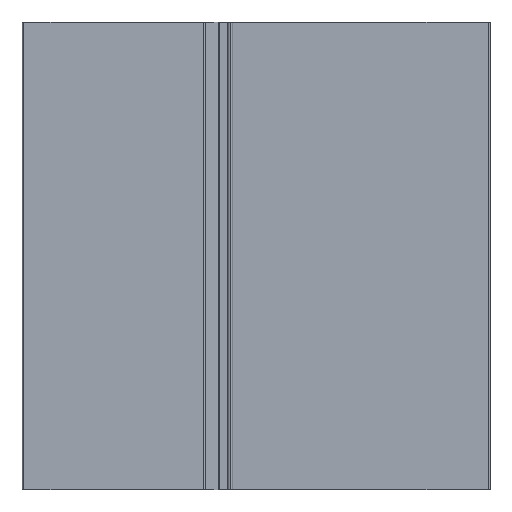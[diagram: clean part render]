
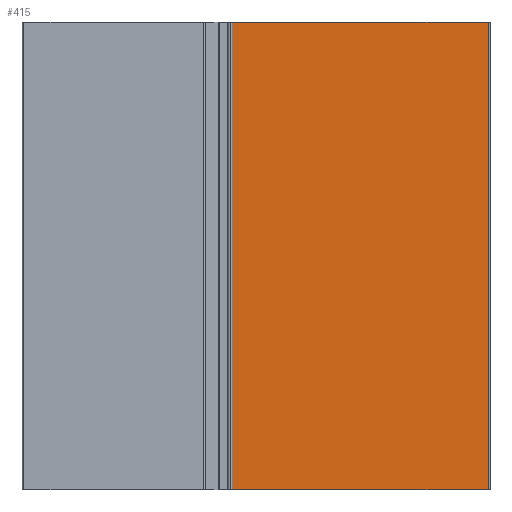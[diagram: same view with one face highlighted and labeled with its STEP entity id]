
A CAD part, left-side view. The second image highlights one B-rep face of the part: STEP entity #415.
In plain terms, the highlighted planar face has unit normal (-1, 0, 0).
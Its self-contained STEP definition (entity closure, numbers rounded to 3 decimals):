
#290 = VERTEX_POINT ( 'NONE', #3055 ) ;
#302 = EDGE_CURVE ( 'NONE', #2502, #290, #3162, .T. ) ;
#333 = ORIENTED_EDGE ( 'NONE', *, *, #302, .T. ) ;
#382 = EDGE_LOOP ( 'NONE', ( #333, #604, #4276, #4034 ) ) ;
#415 = ADVANCED_FACE ( 'NONE', ( #3804 ), #3805, .F. ) ;
#604 = ORIENTED_EDGE ( 'NONE', *, *, #4350, .F. ) ;
#613 = VERTEX_POINT ( 'NONE', #2166 ) ;
#652 = EDGE_CURVE ( 'NONE', #613, #2502, #2288, .T. ) ;
#1765 = CARTESIAN_POINT ( 'NONE',  ( -2.55, 0.2, 50. ) ) ;
#1905 = LINE ( 'NONE', #1906, #1907 ) ;
#1906 = CARTESIAN_POINT ( 'NONE',  ( -2.55, 0.2, 50. ) ) ;
#1907 = VECTOR ( 'NONE', #1908, 1000. ) ;
#1908 = DIRECTION ( 'NONE',  ( 0., 0., -1. ) ) ;
#2166 = CARTESIAN_POINT ( 'NONE',  ( -2.55, 27.5, 50. ) ) ;
#2288 = LINE ( 'NONE', #2289, #2290 ) ;
#2289 = CARTESIAN_POINT ( 'NONE',  ( -2.55, 27.5, 50. ) ) ;
#2290 = VECTOR ( 'NONE', #2291, 1000. ) ;
#2291 = DIRECTION ( 'NONE',  ( 0., 0., -1. ) ) ;
#2502 = VERTEX_POINT ( 'NONE', #2862 ) ;
#2862 = CARTESIAN_POINT ( 'NONE',  ( -2.55, 27.5, 0. ) ) ;
#3055 = CARTESIAN_POINT ( 'NONE',  ( -2.55, 0.2, 0. ) ) ;
#3162 = LINE ( 'NONE', #3163, #3165 ) ;
#3163 = CARTESIAN_POINT ( 'NONE',  ( -2.55, 0.2, 0. ) ) ;
#3165 = VECTOR ( 'NONE', #3166, 1000. ) ;
#3166 = DIRECTION ( 'NONE',  ( 0., -1., 0. ) ) ;
#3804 = FACE_OUTER_BOUND ( 'NONE', #382, .T. ) ;
#3805 = PLANE ( 'NONE',  #3806 ) ;
#3806 = AXIS2_PLACEMENT_3D ( 'NONE', #3807, #3808, #3809 ) ;
#3807 = CARTESIAN_POINT ( 'NONE',  ( -2.55, 0.2, 50. ) ) ;
#3808 = DIRECTION ( 'NONE',  ( 1., 0., 0. ) ) ;
#3809 = DIRECTION ( 'NONE',  ( 0., 0., -1. ) ) ;
#3938 = LINE ( 'NONE', #3939, #3940 ) ;
#3939 = CARTESIAN_POINT ( 'NONE',  ( -2.55, 0.2, 50. ) ) ;
#3940 = VECTOR ( 'NONE', #3941, 1000. ) ;
#3941 = DIRECTION ( 'NONE',  ( 0., -1., 0. ) ) ;
#4034 = ORIENTED_EDGE ( 'NONE', *, *, #652, .T. ) ;
#4252 = EDGE_CURVE ( 'NONE', #613, #4327, #3938, .T. ) ;
#4276 = ORIENTED_EDGE ( 'NONE', *, *, #4252, .F. ) ;
#4327 = VERTEX_POINT ( 'NONE', #1765 ) ;
#4350 = EDGE_CURVE ( 'NONE', #4327, #290, #1905, .T. ) ;
